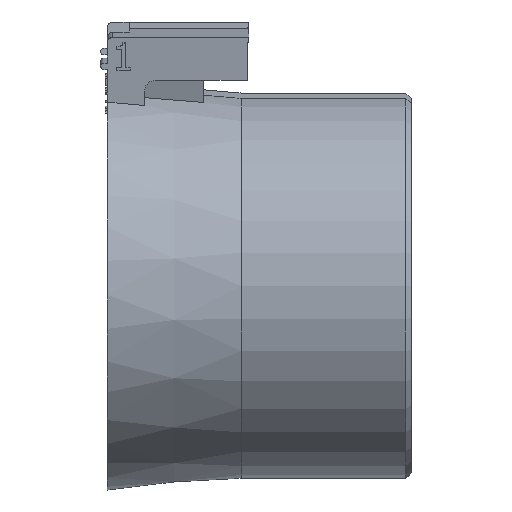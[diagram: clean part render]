
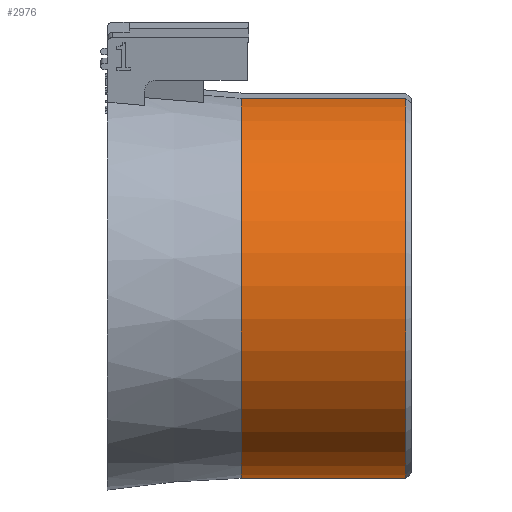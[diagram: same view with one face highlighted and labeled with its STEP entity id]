
A CAD part, front view. The second image highlights one B-rep face of the part: STEP entity #2976.
In plain terms, the highlighted cylindrical face has radius 17.5 mm (diameter 35 mm), a partial arc.
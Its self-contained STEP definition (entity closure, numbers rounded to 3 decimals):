
#49=CYLINDRICAL_SURFACE('',#3162,17.5);
#85=CIRCLE('',#3163,17.5);
#86=CIRCLE('',#3164,17.5);
#365=FACE_OUTER_BOUND('',#534,.T.);
#534=EDGE_LOOP('',(#2523,#2524,#2525,#2526));
#824=LINE('',#4929,#1135);
#842=LINE('',#4969,#1153);
#1135=VECTOR('',#3718,10.);
#1153=VECTOR('',#3746,10.);
#1426=VERTEX_POINT('',#4926);
#1427=VERTEX_POINT('',#4928);
#1443=VERTEX_POINT('',#4967);
#1444=VERTEX_POINT('',#4968);
#1807=EDGE_CURVE('',#1427,#1426,#824,.T.);
#1827=EDGE_CURVE('',#1443,#1444,#842,.T.);
#1828=EDGE_CURVE('',#1427,#1443,#85,.T.);
#1829=EDGE_CURVE('',#1444,#1426,#86,.T.);
#2523=ORIENTED_EDGE('',*,*,#1827,.F.);
#2524=ORIENTED_EDGE('',*,*,#1828,.F.);
#2525=ORIENTED_EDGE('',*,*,#1807,.T.);
#2526=ORIENTED_EDGE('',*,*,#1829,.F.);
#2976=ADVANCED_FACE('',(#365),#49,.T.);
#3162=AXIS2_PLACEMENT_3D('',#4966,#3744,#3745);
#3163=AXIS2_PLACEMENT_3D('',#4970,#3747,#3748);
#3164=AXIS2_PLACEMENT_3D('',#4971,#3749,#3750);
#3718=DIRECTION('',(-1.,0.,0.));
#3744=DIRECTION('center_axis',(-1.,0.,0.));
#3745=DIRECTION('ref_axis',(0.,-0.985,-0.174));
#3746=DIRECTION('',(-1.,0.,0.));
#3747=DIRECTION('center_axis',(1.,0.,0.));
#3748=DIRECTION('ref_axis',(0.,0.985,0.174));
#3749=DIRECTION('center_axis',(-1.,0.,0.));
#3750=DIRECTION('ref_axis',(0.,-0.985,-0.174));
#4926=CARTESIAN_POINT('',(11.43,-5.626,17.008));
#4928=CARTESIAN_POINT('',(26.5,-5.626,17.008));
#4929=CARTESIAN_POINT('',(19.215,-5.626,17.008));
#4966=CARTESIAN_POINT('Origin',(19.215,-2.587,-0.226));
#4967=CARTESIAN_POINT('',(26.5,0.227,-17.499));
#4968=CARTESIAN_POINT('',(11.43,0.227,-17.499));
#4969=CARTESIAN_POINT('',(19.215,0.227,-17.499));
#4970=CARTESIAN_POINT('Origin',(26.5,-2.587,-0.226));
#4971=CARTESIAN_POINT('Origin',(11.43,-2.587,-0.226));
